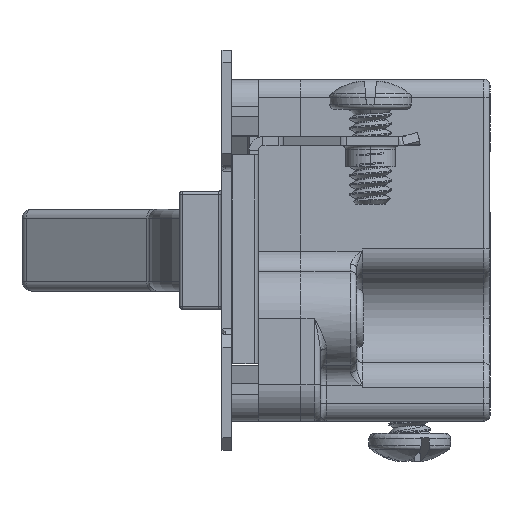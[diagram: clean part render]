
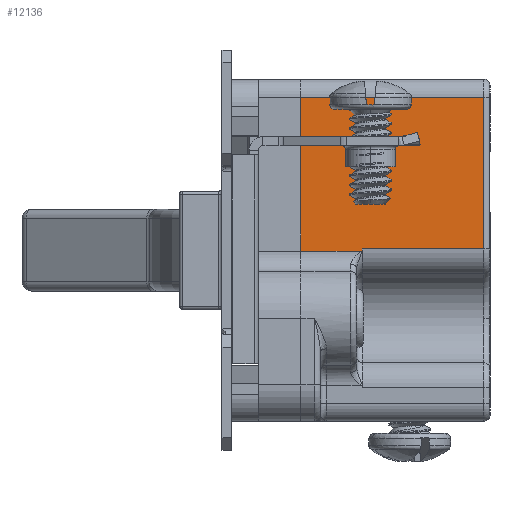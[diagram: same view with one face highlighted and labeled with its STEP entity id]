
A CAD part, left-side view. The second image highlights one B-rep face of the part: STEP entity #12136.
In plain terms, the highlighted planar face has unit normal (-1, 0, 0).
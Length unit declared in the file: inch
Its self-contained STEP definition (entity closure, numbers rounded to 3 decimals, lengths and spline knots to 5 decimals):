
#3643 = FACE_OUTER_BOUND ( 'NONE', #10798, .T. ) ;
#3734 = AXIS2_PLACEMENT_3D ( 'NONE', #19491, #19492, #19493 ) ;
#4043 = VECTOR ( 'NONE', #4802, 39.37008 ) ;
#4044 = VECTOR ( 'NONE', #4805, 39.37008 ) ;
#4045 = VECTOR ( 'NONE', #4808, 39.37008 ) ;
#4046 = VECTOR ( 'NONE', #4811, 39.37008 ) ;
#4048 = VECTOR ( 'NONE', #4814, 39.37008 ) ;
#4787 = CARTESIAN_POINT ( 'NONE',  ( -1.09, -0.00296, -0.42534 ) ) ;
#4800 = LINE ( 'NONE', #4801, #4043 ) ;
#4801 = CARTESIAN_POINT ( 'NONE',  ( -1.09, 0.505, -0.02 ) ) ;
#4802 = DIRECTION ( 'NONE',  ( 0., 1., 0. ) ) ;
#4803 = LINE ( 'NONE', #4804, #4044 ) ;
#4804 = CARTESIAN_POINT ( 'NONE',  ( -1.09, 0.00413, -0.625 ) ) ;
#4805 = DIRECTION ( 'NONE',  ( 0., 0., 1. ) ) ;
#4806 = LINE ( 'NONE', #4807, #4045 ) ;
#4807 = CARTESIAN_POINT ( 'NONE',  ( -1.09, 0.505, -0.625 ) ) ;
#4808 = DIRECTION ( 'NONE',  ( 0., 0., 1. ) ) ;
#4809 = LINE ( 'NONE', #4810, #4046 ) ;
#4810 = CARTESIAN_POINT ( 'NONE',  ( -1.09, 0.505, -0.625 ) ) ;
#4811 = DIRECTION ( 'NONE',  ( 0., -1., 0. ) ) ;
#4812 = LINE ( 'NONE', #4813, #4048 ) ;
#4813 = CARTESIAN_POINT ( 'NONE',  ( -1.09, -0.00296, -0.625 ) ) ;
#4814 = DIRECTION ( 'NONE',  ( 0., 0., 1. ) ) ;
#4815 = CARTESIAN_POINT ( 'NONE',  ( -1.09, -0.00068, -0.42364 ) ) ;
#4816 = CARTESIAN_POINT ( 'NONE',  ( -1.09, 0.00159, -0.42192 ) ) ;
#4817 = CARTESIAN_POINT ( 'NONE',  ( -1.09, 0.00386, -0.4202 ) ) ;
#4818 = CARTESIAN_POINT ( 'NONE',  ( -1.09, 0.00395, -0.42013 ) ) ;
#4819 = CARTESIAN_POINT ( 'NONE',  ( -1.09, 0.00404, -0.42007 ) ) ;
#4820 = CARTESIAN_POINT ( 'NONE',  ( -1.09, 0.00413, -0.42 ) ) ;
#10583 = B_SPLINE_CURVE_WITH_KNOTS ( 'NONE', 3,
 ( #4787, #4815, #4816, #4817, #4818, #4819, #4820 ),
 .UNSPECIFIED., .F., .F.,
 ( 4, 3, 4 ),
 ( 0., 0.00022, 0.00023 ),
 .UNSPECIFIED. ) ;
#10798 = EDGE_LOOP ( 'NONE', ( #15588, #15590, #15589, #15591, #15592, #15593 ) ) ;
#11006 = VERTEX_POINT ( 'NONE', #18289 ) ;
#11028 = VERTEX_POINT ( 'NONE', #18311 ) ;
#11030 = VERTEX_POINT ( 'NONE', #18313 ) ;
#11031 = VERTEX_POINT ( 'NONE', #18314 ) ;
#11076 = VERTEX_POINT ( 'NONE', #18359 ) ;
#11078 = VERTEX_POINT ( 'NONE', #18361 ) ;
#12136 = ADVANCED_FACE ( 'NONE', ( #3643 ), #19490, .T. ) ;
#14133 = EDGE_CURVE ( 'NONE', #11078, #11030, #4800, .T. ) ;
#14134 = EDGE_CURVE ( 'NONE', #11031, #11078, #4803, .T. ) ;
#14135 = EDGE_CURVE ( 'NONE', #11076, #11030, #4806, .T. ) ;
#14136 = EDGE_CURVE ( 'NONE', #11076, #11006, #4809, .T. ) ;
#14137 = EDGE_CURVE ( 'NONE', #11006, #11028, #4812, .T. ) ;
#14138 = EDGE_CURVE ( 'NONE', #11028, #11031, #10583, .T. ) ;
#15588 = ORIENTED_EDGE ( 'NONE', *, *, #14134, .T. ) ;
#15589 = ORIENTED_EDGE ( 'NONE', *, *, #14135, .F. ) ;
#15590 = ORIENTED_EDGE ( 'NONE', *, *, #14133, .T. ) ;
#15591 = ORIENTED_EDGE ( 'NONE', *, *, #14136, .T. ) ;
#15592 = ORIENTED_EDGE ( 'NONE', *, *, #14137, .T. ) ;
#15593 = ORIENTED_EDGE ( 'NONE', *, *, #14138, .T. ) ;
#18289 = CARTESIAN_POINT ( 'NONE',  ( -1.09, -0.00296, -0.625 ) ) ;
#18311 = CARTESIAN_POINT ( 'NONE',  ( -1.09, -0.00296, -0.42534 ) ) ;
#18313 = CARTESIAN_POINT ( 'NONE',  ( -1.09, 0.505, -0.02 ) ) ;
#18314 = CARTESIAN_POINT ( 'NONE',  ( -1.09, 0.00413, -0.42 ) ) ;
#18359 = CARTESIAN_POINT ( 'NONE',  ( -1.09, 0.505, -0.625 ) ) ;
#18361 = CARTESIAN_POINT ( 'NONE',  ( -1.09, 0.00413, -0.02 ) ) ;
#19490 = PLANE ( 'NONE',  #3734 ) ;
#19491 = CARTESIAN_POINT ( 'NONE',  ( -1.09, 0.505, -0.625 ) ) ;
#19492 = DIRECTION ( 'NONE',  ( -1., 0., 0. ) ) ;
#19493 = DIRECTION ( 'NONE',  ( 0., 0., 1. ) ) ;
